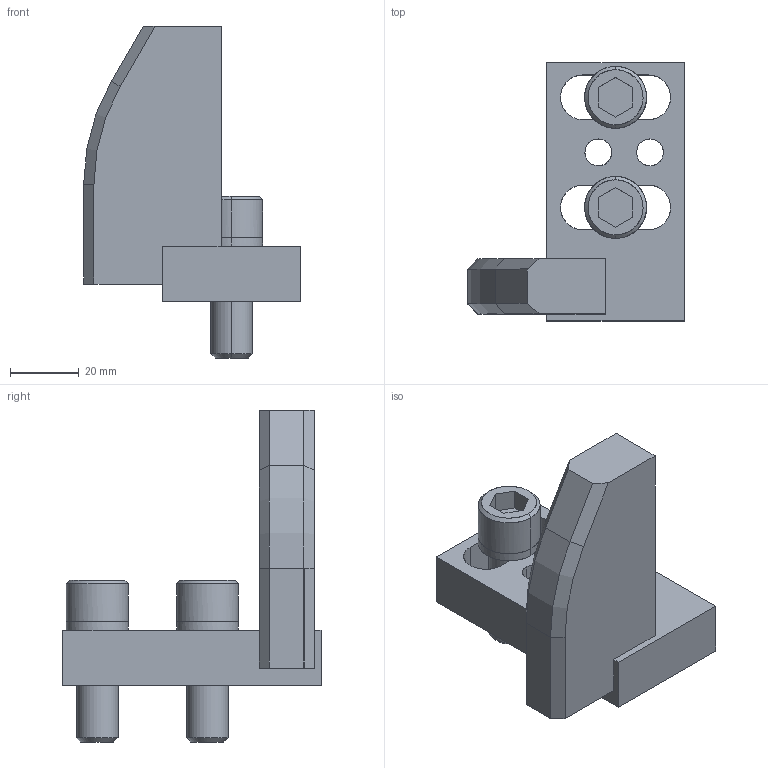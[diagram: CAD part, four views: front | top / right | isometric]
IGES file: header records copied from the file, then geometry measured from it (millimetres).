
Global section: file name: E:\UnigraphicsGraphicData\MISUMI_PRESS-PARTS\IGES\3d_ngwbl-80-30-s40-m12_01582_r00.igs; native system: NX V5.0; preprocessor: UGS NX IGES V5.0; author: MISUMI; date: 20110105.162113; units: millimetre
Bounding box: 63 x 75 x 96.5 mm (x, y, z)
Surface area: 26990.2 mm2 (no closed solid volume)
Topology: 0 solids, 0 shells, 104 faces, 666 edges, 666 vertices
Faces by surface type: bspline 104
